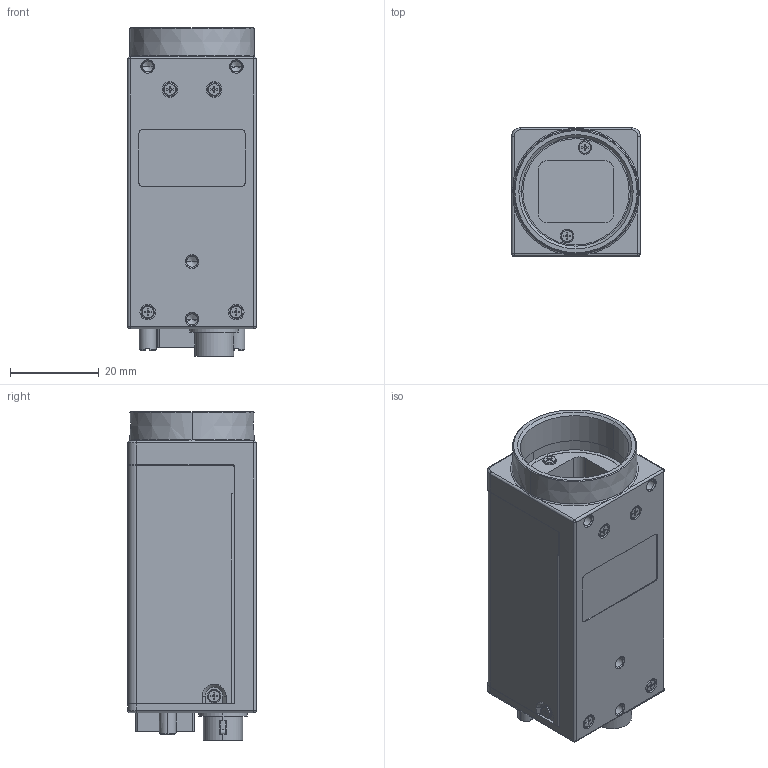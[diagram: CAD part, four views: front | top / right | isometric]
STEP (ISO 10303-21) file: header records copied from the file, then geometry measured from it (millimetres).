
FILE_DESCRIPTION((''),'2;1');
FILE_NAME('GO-8105M-5GE-UV_MOCK','2022-09-06T09:48:44',('aso'),(''),'CREO PARAMETRIC BY PTC INC, 2019352','CREO PARAMETRIC BY PTC INC, 2019352','');
FILE_SCHEMA(('AUTOMOTIVE_DESIGN { 1 0 10303 214 1 1 1 1 }'));
Length unit declared in the file: millimetre
Products named in the file (1): GO-8105M-5GE-UV_MOCK
Bounding box: 29 x 29 x 74.3 mm (x, y, z)
Volume: 48719.1 mm3; surface area: 13353 mm2
Topology: 1 solids, 9 shells, 590 faces, 1551 edges, 985 vertices
Faces by surface type: plane 314, cylinder 156, cone 72, torus 26, sphere 14, bspline 8
Entity records: 22884 total; most frequent: CARTESIAN_POINT 3877, DIRECTION 3133, ORIENTED_EDGE 3020, EDGE_CURVE 1523, AXIS2_PLACEMENT_3D 1079, VERTEX_POINT 985, VECTOR 975, LINE 975
